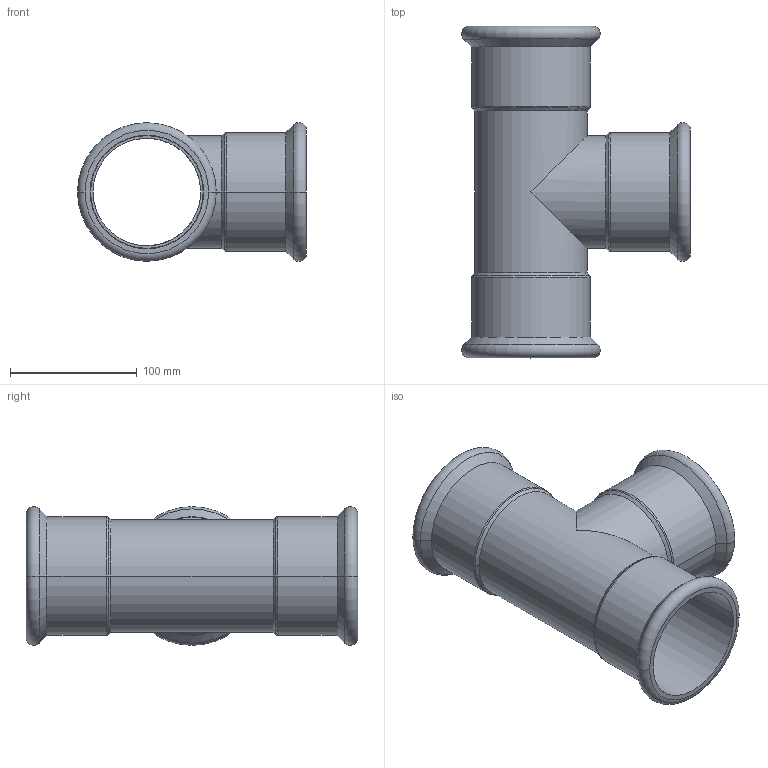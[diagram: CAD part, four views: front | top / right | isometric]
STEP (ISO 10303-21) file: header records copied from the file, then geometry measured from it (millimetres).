
FILE_DESCRIPTION(('CoCreate Modeling STEP Export'),'2;1');
FILE_NAME('C1414 88.9x88.9x88.9.stp','2014-11-11T16:59:28',(''),(''),'CoCreate Modeling STEP processor for AP214 (Solid Model)','CoCreate Modeling 17.00A 17-Jun-2010 (C) Parametric Technology GmbH','');
FILE_SCHEMA(('AUTOMOTIVE_DESIGN { 1 0 10303 214 1 1 1 1 }'));
Length unit declared in the file: millimetre
Products named in the file (2): C1414_89x89x89
Assembly tree (1 placements, depth 2):
  C1414_89x89x89
    C1414_89x89x89
Bounding box: 180.74 x 262 x 109.48 mm (x, y, z)
Volume: 277123.1 mm3; surface area: 202254 mm2
Topology: 1 solids, 1 shells, 59 faces, 129 edges, 77 vertices
Faces by surface type: cylinder 26, cone 12, torus 12, plane 9
Entity records: 1356 total; most frequent: ORIENTED_EDGE 258, DIRECTION 208, CARTESIAN_POINT 200, EDGE_CURVE 129, AXIS2_PLACEMENT_3D 85, VERTEX_POINT 77, EDGE_LOOP 68, FACE_OUTER_BOUND 59
